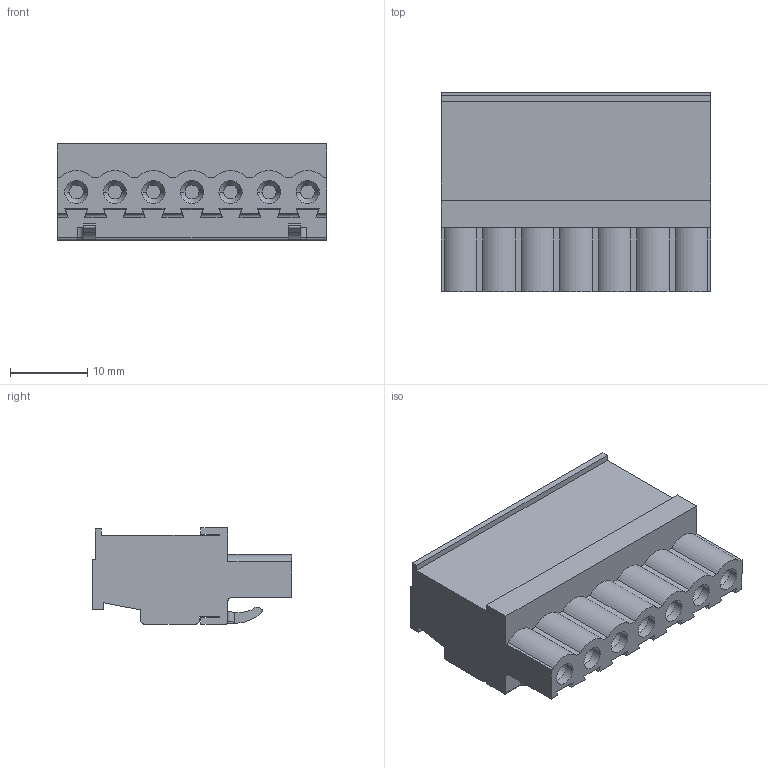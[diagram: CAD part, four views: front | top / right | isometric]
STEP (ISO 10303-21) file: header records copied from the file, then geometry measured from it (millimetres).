
FILE_DESCRIPTION (( 'STEP AP214' ), '1' );
FILE_NAME ('120-D-121-07.STEP', '2007-09-20T03:57:25', ( ' ' ), ( '' ), 'SwSTEP 2.0', 'SolidWorks 2007', '' );
FILE_SCHEMA (( 'AUTOMOTIVE_DESIGN' ));
Length unit declared in the file: millimetre
Products named in the file (1): 120-D-121-07
Bounding box: 35 x 25.9 x 12.5 mm (x, y, z)
Volume: 7386.3 mm3; surface area: 4590.7 mm2
Topology: 1 solids, 1 shells, 358 faces, 940 edges, 598 vertices
Faces by surface type: plane 230, cylinder 98, cone 28, torus 2
Entity records: 10943 total; most frequent: CARTESIAN_POINT 1969, ORIENTED_EDGE 1880, DIRECTION 1866, EDGE_CURVE 940, VECTOR 692, LINE 692, VERTEX_POINT 598, AXIS2_PLACEMENT_3D 587
